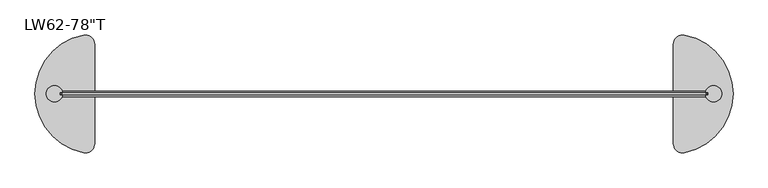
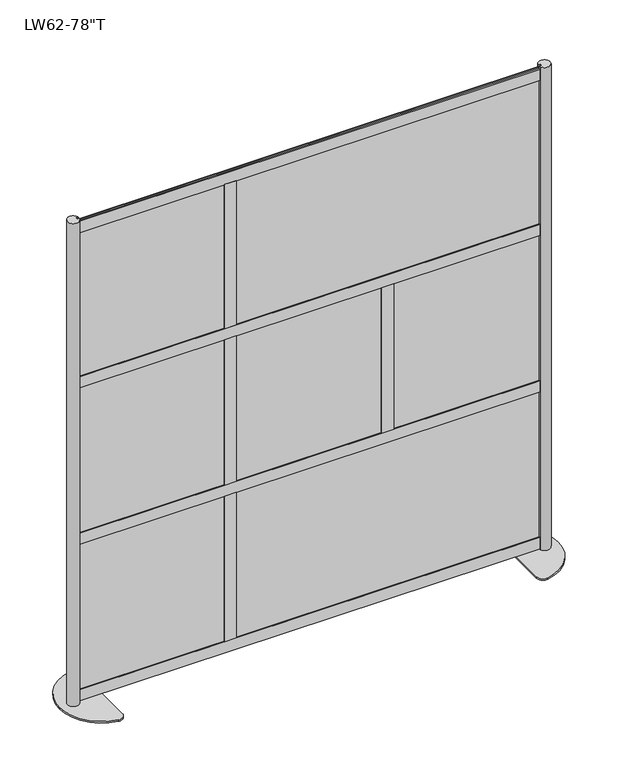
"""IFC4 building model written with IfcOpenShell, lengths in millimetres: furniture geometry."""

from ifc_helpers import new_model, si_unit, point, frame, frame_2d, origin, origin_with_axes, place, context, project, spatial, polyline, circle_curve, trimmed, segment, composite_curve, outline, extrude, source, transform, mapped, element, save


def furniture_05770d44(model_context):
    return source(origin(), model_context, "Body", "SweptSolid", [
        extrude(outline(polyline([(289.233901, -1.531862), (-899.803599, -1.531862), (-899.803599, 1.643138), (289.233901, 1.643138), (289.233901, -1.531862)])), frame((0.0, 0.0, 689.2170135), z_axis=(0.0, 0.0, 1.0), x_axis=(1.0, 0.0, 0.0)), (0.0, 0.0, 1.0), 608.965),
        extrude(outline(polyline([(893.3285387, -1.531862), (-295.7089613, -1.531862), (-295.7089613, 1.643138), (893.3285387, 1.643138), (893.3285387, -1.531862)])), frame((0.0, 0.0, 1324.5091135), z_axis=(0.0, 0.0, 1.0), x_axis=(1.0, 0.0, 0.0)), (0.0, 0.0, 1.0), 608.965),
        extrude(outline(polyline([(-897.2933616, 1.5875), (-319.4433608, 1.5875), (-319.4435344, -1.5875), (-897.2935353, -1.5875), (-897.2933616, 1.5875)])), frame((0.0, 0.0, 1324.2670292), z_axis=(0.0, 0.0, 1.0), x_axis=(1.0, 0.0, 0.0)), (0.0, 0.0, 1.0), 608.965),
        extrude(outline(polyline([(-897.2933616, 1.5875), (-319.4433608, 1.5875), (-319.4435344, -1.5875), (-897.2935353, -1.5875), (-897.2933616, 1.5875)])), frame((0.0, 0.0, 689.2671), z_axis=(0.0, 0.0, 1.0), x_axis=(1.0, 0.0, 0.0)), (0.0, 0.0, 1.0), 608.965),
        extrude(outline(polyline([(-897.2933616, 1.5875), (-319.4433608, 1.5875), (-319.4435344, -1.5875), (-897.2935353, -1.5875), (-897.2933616, 1.5875)])), frame((0.0, 0.0, 49.2633), z_axis=(0.0, 0.0, 1.0), x_axis=(1.0, 0.0, 0.0)), (0.0, 0.0, 1.0), 608.965),
        extrude(outline(polyline([(-296.520037, 1.5875), (281.3299638, 1.5875), (281.3297902, -1.5875), (-296.5202107, -1.5875), (-296.520037, 1.5875)])), frame((0.0, 0.0, 689.2671), z_axis=(0.0, 0.0, 1.0), x_axis=(1.0, 0.0, 0.0)), (0.0, 0.0, 1.0), 608.965),
        extrude(outline(polyline([(316.9532876, 1.5875), (894.8032884, 1.5875), (894.8031147, -1.5875), (316.9531139, -1.5875), (316.9532876, 1.5875)])), frame((0.0, 0.0, 689.2671), z_axis=(0.0, 0.0, 1.0), x_axis=(1.0, 0.0, 0.0)), (0.0, 0.0, 1.0), 608.965),
        extrude(outline(polyline([(893.3285387, -1.531862), (-295.7089613, -1.531862), (-295.7089613, 1.643138), (893.3285387, 1.643138), (893.3285387, -1.531862)])), frame((0.0, 0.0, 49.2132135), z_axis=(0.0, 0.0, 1.0), x_axis=(1.0, 0.0, 0.0)), (0.0, 0.0, 1.0), 608.965),
        extrude(outline(polyline([(323.8118123, 3.556), (316.6998123, 3.556), (316.6998123, -3.556), (323.8118123, -3.556), (323.8118123, -7.6327), (278.5490123, -7.6327), (278.5490123, -3.556), (285.6610123, -3.556), (285.6610123, 3.556), (278.5490123, 3.556), (278.5490123, 7.6327), (323.8118123, 7.6327), (323.8118123, 3.556)])), frame((0.0, 0.0, 696.3791), z_axis=(0.0, 0.0, 1.0), x_axis=(1.0, 0.0, 0.0)), (0.0, 0.0, 1.0), 594.741),
        extrude(outline(polyline([(-329.3680623, 3.556), (-329.3680623, 7.6327), (-284.1052623, 7.6327), (-284.1052623, 3.556), (-291.2172623, 3.556), (-291.2172623, -3.556), (-284.1052623, -3.556), (-284.1052623, -7.6327), (-329.3680623, -7.6327), (-329.3680623, -3.556), (-322.2560623, -3.556), (-322.2560623, 3.556), (-329.3680623, 3.556)])), frame((0.0, 0.0, 1336.3829), z_axis=(0.0, 0.0, 1.0), x_axis=(1.0, 0.0, 0.0)), (0.0, 0.0, 1.0), 590.0293),
        extrude(outline(polyline([(-329.3680623, 3.556), (-329.3680623, 7.6327), (-284.1052623, 7.6327), (-284.1052623, 3.556), (-291.2172623, 3.556), (-291.2172623, -3.556), (-284.1052623, -3.556), (-284.1052623, -7.6327), (-329.3680623, -7.6327), (-329.3680623, -3.556), (-322.2560623, -3.556), (-322.2560623, 3.556), (-329.3680623, 3.556)])), frame((0.0, 0.0, 696.3791), z_axis=(0.0, 0.0, 1.0), x_axis=(1.0, 0.0, 0.0)), (0.0, 0.0, 1.0), 594.741),
        extrude(outline(polyline([(-329.3680623, 3.556), (-329.3680623, 7.6327), (-284.1052623, 7.6327), (-284.1052623, 3.556), (-291.2172623, 3.556), (-291.2172623, -3.556), (-284.1052623, -3.556), (-284.1052623, -7.6327), (-329.3680623, -7.6327), (-329.3680623, -3.556), (-322.2560623, -3.556), (-322.2560623, 3.556), (-329.3680623, 3.556)])), frame((0.0, 0.0, 56.3753), z_axis=(0.0, 0.0, 1.0), x_axis=(1.0, 0.0, 0.0)), (0.0, 0.0, 1.0), 594.741),
        extrude(outline(polyline([(3.556, 651.1163), (3.556, 658.2283), (-3.556, 658.2283), (-3.556, 651.1163), (-7.6327, 651.1163), (-7.6327, 696.3791), (-3.556, 696.3791), (-3.556, 689.2671), (3.556, 689.2671), (3.556, 696.3791), (7.6327, 696.3791), (7.6327, 651.1163), (3.556, 651.1163)])), frame((-889.7874, 0.0, 0.0), z_axis=(1.0, 0.0, 0.0), x_axis=(0.0, 1.0, 0.0)), (0.0, 0.0, 1.0), 1779.5748),
        extrude(outline(polyline([(3.556, 1291.1201), (3.556, 1298.2321), (-3.556, 1298.2321), (-3.556, 1291.1201), (-7.6327, 1291.1201), (-7.6327, 1336.3829), (-3.556, 1336.3829), (-3.556, 1329.2709), (3.556, 1329.2709), (3.556, 1336.3829), (7.6327, 1336.3829), (7.6327, 1291.1201), (3.556, 1291.1201)])), frame((-889.7874, 0.0, 0.0), z_axis=(1.0, 0.0, 0.0), x_axis=(0.0, 1.0, 0.0)), (0.0, 0.0, 1.0), 1779.5748),
        extrude(outline(polyline([(3.556, 11.1125), (3.556, 18.2245), (-3.556, 18.2245), (-3.556, 11.1125), (-7.6327, 11.1125), (-7.6327, 56.3753), (-3.556, 56.3753), (-3.556, 49.2633), (3.556, 49.2633), (3.556, 56.3753), (7.6327, 56.3753), (7.6327, 11.1125), (3.556, 11.1125)])), frame((-889.8636, 0.0, 0.0), z_axis=(1.0, 0.0, 0.0), x_axis=(0.0, 1.0, 0.0)), (0.0, 0.0, 1.0), 1779.7272),
        extrude(outline(polyline([(3.556, 1926.1200292), (3.556, 1933.2320292), (-3.556, 1933.2320292), (-3.556, 1926.1200292), (-7.6327, 1926.1200292), (-7.6327, 1971.3828292), (-3.556, 1971.3828292), (-3.556, 1964.2708292), (3.556, 1964.2708292), (3.556, 1971.3828292), (7.6327, 1971.3828292), (7.6327, 1926.1200292), (3.556, 1926.1200292)])), frame((-889.8636, 0.0, 0.0), z_axis=(1.0, 0.0, 0.0), x_axis=(0.0, 1.0, 0.0)), (0.0, 0.0, 1.0), 1779.7272),
        extrude(outline(composite_curve([segment(polyline([(889.8636, -7.7568093), (889.8636, -3.556), (896.9756, -3.556), (896.9756, 3.556), (889.8636, 3.556), (889.8636, 7.7568093)]), True, "CONTINUOUS"), segment(trimmed(circle_curve(frame_2d((910.9665837, 0.0)), 22.4834163), [point((889.8636, 7.7568093))], [point((889.8636, -7.7568093))], False, "CARTESIAN"), True, "CONTINUOUS")], self_intersect=False)), frame((0.0, 0.0, 6.35), z_axis=(0.0, 0.0, 1.0), x_axis=(1.0, 0.0, 0.0)), (0.0, 0.0, 1.0), 1974.85),
        extrude(outline(composite_curve([segment(polyline([(800.1, -137.3715036), (800.1, 137.3715036)]), True, "CONTINUOUS"), segment(trimmed(circle_curve(frame_2d((825.5, 137.3715036)), 25.4), [point((800.1, 137.3715036))], [point((830.1181818, 162.3481406))], False, "CARTESIAN"), True, "CONTINUOUS"), segment(trimmed(circle_curve(frame_2d((800.1, 0.0)), 165.1), [point((830.1181818, 162.3481406))], [point((965.2, 0.0))], False, "CARTESIAN"), True, "CONTINUOUS"), segment(trimmed(circle_curve(frame_2d((800.1, 0.0)), 165.1), [point((965.2, 0.0))], [point((830.1181818, -162.3481406))], False, "CARTESIAN"), True, "CONTINUOUS"), segment(trimmed(circle_curve(frame_2d((825.5, -137.3715036)), 25.4), [point((830.1181818, -162.3481406))], [point((800.1, -137.3715036))], False, "CARTESIAN"), True, "CONTINUOUS")], self_intersect=False)), origin_with_axes(), (0.0, 0.0, 1.0), 6.35),
        extrude(outline(composite_curve([segment(trimmed(circle_curve(frame_2d((-910.9665837, 0.0)), 22.4834163), [point((-889.8636, -7.7568093))], [point((-889.8636, 7.7568093))], False, "CARTESIAN"), True, "CONTINUOUS"), segment(polyline([(-889.8636, 7.7568093), (-889.8636, 3.556), (-896.9756, 3.556), (-896.9756, -3.556), (-889.8636, -3.556), (-889.8636, -7.7568093)]), True, "CONTINUOUS")], self_intersect=False)), frame((0.0, 0.0, 6.35), z_axis=(0.0, 0.0, 1.0), x_axis=(1.0, 0.0, 0.0)), (0.0, 0.0, 1.0), 1974.85),
        extrude(outline(composite_curve([segment(trimmed(circle_curve(frame_2d((-825.5, -137.3715036)), 25.4), [point((-800.1, -137.3715036))], [point((-830.1181818, -162.3481406))], False, "CARTESIAN"), True, "CONTINUOUS"), segment(trimmed(circle_curve(frame_2d((-800.1, 0.0)), 165.1), [point((-830.1181818, -162.3481406))], [point((-965.2, 0.0))], False, "CARTESIAN"), True, "CONTINUOUS"), segment(trimmed(circle_curve(frame_2d((-800.1, 0.0)), 165.1), [point((-965.2, 0.0))], [point((-830.1181818, 162.3481406))], False, "CARTESIAN"), True, "CONTINUOUS"), segment(trimmed(circle_curve(frame_2d((-825.5, 137.3715036)), 25.4), [point((-830.1181818, 162.3481406))], [point((-800.1, 137.3715036))], False, "CARTESIAN"), True, "CONTINUOUS"), segment(polyline([(-800.1, 137.3715036), (-800.1, -137.3715036)]), True, "CONTINUOUS")], self_intersect=False)), origin_with_axes(), (0.0, 0.0, 1.0), 6.35),
    ])


if __name__ == "__main__":
    model = new_model("IFC4")
    model_context = context("Model", 3, world=origin())
    ifc_project = project(units=[si_unit("LENGTHUNIT", "METRE", prefix="MILLI")], contexts=[model_context])
    site = spatial("IfcSite", under=ifc_project)
    building = spatial("IfcBuilding", under=site)
    placement = place(None, origin())
    furniture_shape = furniture_05770d44(model_context)
    element("IfcFurniture", 1, ObjectType="Loft_Wall-Framewall-76 : LW62-78\"T", at=placement, inside=building, context=model_context, shape_type="MappedRepresentation", body=[
        mapped(furniture_shape, transform((0.0, 0.0, 0.0), x_axis=(1.0, 0.0, 0.0), y_axis=(0.0, 1.0, 0.0), z_axis=(0.0, 0.0, 1.0))),
    ])
    save(model, "model.ifc")
